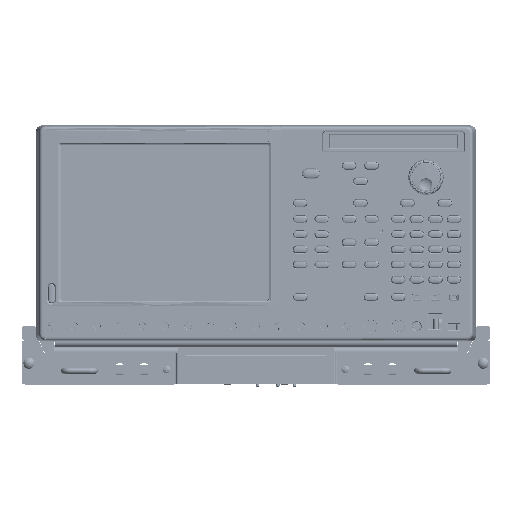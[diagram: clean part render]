
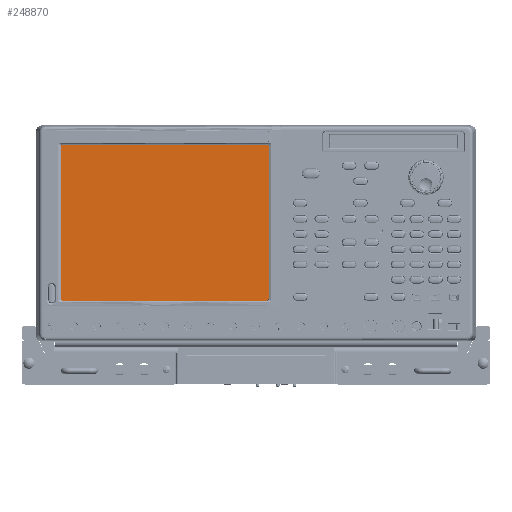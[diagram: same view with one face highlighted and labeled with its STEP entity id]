
A CAD part, front view. The second image highlights one B-rep face of the part: STEP entity #248870.
In plain terms, the highlighted planar face has unit normal (0, -1, 0) as drawn and (0, 0, 1) by its records, which use the part's own axes.
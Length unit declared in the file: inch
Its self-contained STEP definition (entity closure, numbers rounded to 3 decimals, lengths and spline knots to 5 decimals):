
#248527=DIRECTION('',(1.,0.,0.));
#248528=VECTOR('',#248527,0.15);
#248529=CARTESIAN_POINT('',(-4.7835,0.302,0.105));
#248530=LINE('',#248529,#248528);
#248531=DIRECTION('',(0.,-1.,0.));
#248532=VECTOR('',#248531,3.3415);
#248533=CARTESIAN_POINT('',(-4.7835,3.6435,0.105));
#248534=LINE('',#248533,#248532);
#248535=DIRECTION('',(-1.,0.,0.));
#248536=VECTOR('',#248535,9.567);
#248537=CARTESIAN_POINT('',(4.7835,3.6435,0.105));
#248538=LINE('',#248537,#248536);
#248539=DIRECTION('',(0.,1.,0.));
#248540=VECTOR('',#248539,7.287);
#248541=CARTESIAN_POINT('',(4.7835,-3.6435,0.105));
#248542=LINE('',#248541,#248540);
#248543=DIRECTION('',(1.,0.,0.));
#248544=VECTOR('',#248543,9.567);
#248545=CARTESIAN_POINT('',(-4.7835,-3.6435,0.105));
#248546=LINE('',#248545,#248544);
#248547=DIRECTION('',(0.,-1.,0.));
#248548=VECTOR('',#248547,3.3415);
#248549=CARTESIAN_POINT('',(-4.7835,-0.302,0.105));
#248550=LINE('',#248549,#248548);
#248551=DIRECTION('',(1.,0.,0.));
#248552=VECTOR('',#248551,0.15);
#248553=CARTESIAN_POINT('',(-4.7835,-0.302,0.105));
#248554=LINE('',#248553,#248552);
#248555=DIRECTION('',(0.,1.,0.));
#248556=VECTOR('',#248555,0.604);
#248557=CARTESIAN_POINT('',(-4.6335,-0.302,0.105));
#248558=LINE('',#248557,#248556);
#248719=CARTESIAN_POINT('',(-4.7835,-3.6435,0.105));
#248720=CARTESIAN_POINT('',(4.7835,-3.6435,0.105));
#248721=VERTEX_POINT('',#248719);
#248722=VERTEX_POINT('',#248720);
#248723=CARTESIAN_POINT('',(4.7835,3.6435,0.105));
#248724=VERTEX_POINT('',#248723);
#248725=CARTESIAN_POINT('',(-4.7835,3.6435,0.105));
#248726=VERTEX_POINT('',#248725);
#248739=CARTESIAN_POINT('',(-4.7835,0.302,0.105));
#248740=CARTESIAN_POINT('',(-4.6335,0.302,0.105));
#248741=VERTEX_POINT('',#248739);
#248742=VERTEX_POINT('',#248740);
#248743=CARTESIAN_POINT('',(-4.7835,-0.302,0.105));
#248744=CARTESIAN_POINT('',(-4.6335,-0.302,0.105));
#248745=VERTEX_POINT('',#248743);
#248746=VERTEX_POINT('',#248744);
#248850=CARTESIAN_POINT('',(0.,0.,0.105));
#248851=DIRECTION('',(0.,0.,1.));
#248852=DIRECTION('',(1.,0.,0.));
#248853=AXIS2_PLACEMENT_3D('',#248850,#248851,#248852);
#248854=PLANE('',#248853);
#248855=ORIENTED_EDGE('',*,*,#248838,.F.);
#248856=ORIENTED_EDGE('',*,*,#248813,.F.);
#248858=ORIENTED_EDGE('',*,*,#248857,.F.);
#248860=ORIENTED_EDGE('',*,*,#248859,.F.);
#248862=ORIENTED_EDGE('',*,*,#248861,.F.);
#248863=ORIENTED_EDGE('',*,*,#248806,.F.);
#248865=ORIENTED_EDGE('',*,*,#248864,.T.);
#248867=ORIENTED_EDGE('',*,*,#248866,.T.);
#248868=EDGE_LOOP('',(#248855,#248856,#248858,#248860,#248862,#248863,#248865,
#248867));
#248869=FACE_OUTER_BOUND('',#248868,.F.);
#248870=ADVANCED_FACE('',(#248869),#248854,.T.);
#248806=EDGE_CURVE('',#248745,#248721,#248550,.T.);
#248813=EDGE_CURVE('',#248726,#248741,#248534,.T.);
#248838=EDGE_CURVE('',#248741,#248742,#248530,.T.);
#248857=EDGE_CURVE('',#248724,#248726,#248538,.T.);
#248859=EDGE_CURVE('',#248722,#248724,#248542,.T.);
#248861=EDGE_CURVE('',#248721,#248722,#248546,.T.);
#248864=EDGE_CURVE('',#248745,#248746,#248554,.T.);
#248866=EDGE_CURVE('',#248746,#248742,#248558,.T.);
